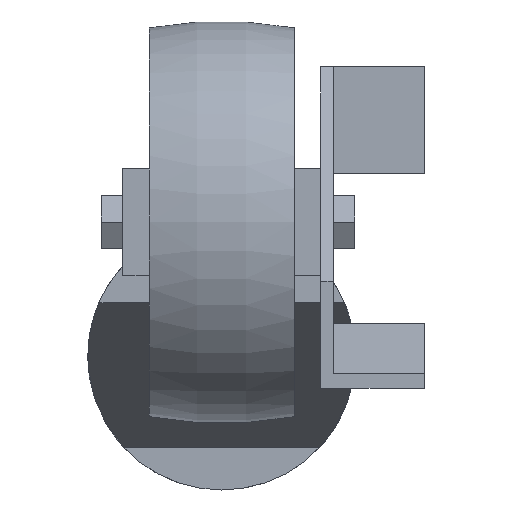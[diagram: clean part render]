
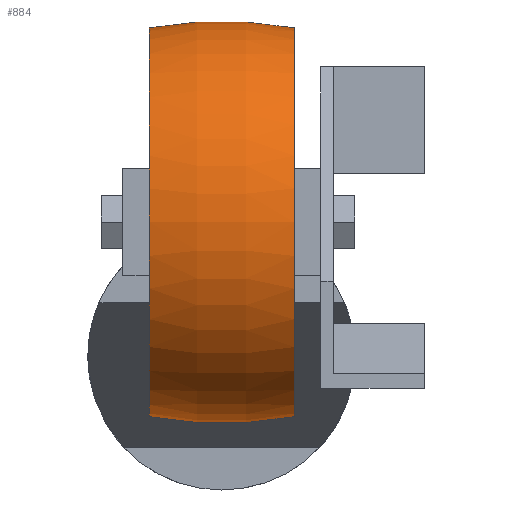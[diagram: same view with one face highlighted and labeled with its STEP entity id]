
A CAD part, front view. The second image highlights one B-rep face of the part: STEP entity #884.
In plain terms, the highlighted toroidal (fillet/blend) face has major radius 37.5 mm and minor radius 75 mm.
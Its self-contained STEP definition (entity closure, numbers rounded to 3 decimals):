
#2 = CARTESIAN_POINT ( 'NONE',  ( -13.5, -63.5, 25. ) ) ;
#18 = EDGE_LOOP ( 'NONE', ( #319, #1023, #629, #1651 ) ) ;
#48 = DIRECTION ( 'NONE',  ( 0., -1., 0. ) ) ;
#67 = TOROIDAL_SURFACE ( 'NONE', #1022, -37.5, 75. ) ;
#97 = EDGE_CURVE ( 'NONE', #1321, #1059, #1034, .T. ) ;
#121 = AXIS2_PLACEMENT_3D ( 'NONE', #712, #48, #605 ) ;
#137 = CARTESIAN_POINT ( 'NONE',  ( 0., -63.5, 62.5 ) ) ;
#150 = DIRECTION ( 'NONE',  ( 0., 0., 1. ) ) ;
#286 = DIRECTION ( 'NONE',  ( -1., 0., 0. ) ) ;
#319 = ORIENTED_EDGE ( 'NONE', *, *, #1235, .F. ) ;
#417 = CARTESIAN_POINT ( 'NONE',  ( 13.5, -63.5, 25. ) ) ;
#420 = AXIS2_PLACEMENT_3D ( 'NONE', #2, #286, #150 ) ;
#547 = DIRECTION ( 'NONE',  ( -1., 0., 0. ) ) ;
#566 = CARTESIAN_POINT ( 'NONE',  ( 13.5, -63.5, 61.275 ) ) ;
#595 = CARTESIAN_POINT ( 'NONE',  ( 13.5, -63.5, -11.275 ) ) ;
#605 = DIRECTION ( 'NONE',  ( 0., 0., -1. ) ) ;
#629 = ORIENTED_EDGE ( 'NONE', *, *, #719, .T. ) ;
#712 = CARTESIAN_POINT ( 'NONE',  ( 0., -63.5, -12.5 ) ) ;
#719 = EDGE_CURVE ( 'NONE', #1570, #1059, #793, .T. ) ;
#789 = AXIS2_PLACEMENT_3D ( 'NONE', #137, #1494, #1345 ) ;
#793 = CIRCLE ( 'NONE', #121, 75. ) ;
#829 = DIRECTION ( 'NONE',  ( 0., 0., 1. ) ) ;
#876 = FACE_OUTER_BOUND ( 'NONE', #18, .T. ) ;
#884 = ADVANCED_FACE ( 'NONE', ( #876 ), #67, .T. ) ;
#900 = CARTESIAN_POINT ( 'NONE',  ( 0., -63.5, 25. ) ) ;
#1022 = AXIS2_PLACEMENT_3D ( 'NONE', #900, #1173, #1686 ) ;
#1023 = ORIENTED_EDGE ( 'NONE', *, *, #1595, .T. ) ;
#1034 = CIRCLE ( 'NONE', #420, 36.275 ) ;
#1059 = VERTEX_POINT ( 'NONE', #1742 ) ;
#1173 = DIRECTION ( 'NONE',  ( -1., 0., 0. ) ) ;
#1235 = EDGE_CURVE ( 'NONE', #1695, #1321, #1554, .T. ) ;
#1321 = VERTEX_POINT ( 'NONE', #1378 ) ;
#1345 = DIRECTION ( 'NONE',  ( 0., 0., 1. ) ) ;
#1354 = CIRCLE ( 'NONE', #1608, 36.275 ) ;
#1378 = CARTESIAN_POINT ( 'NONE',  ( -13.5, -63.5, -11.275 ) ) ;
#1494 = DIRECTION ( 'NONE',  ( 0., 1., 0. ) ) ;
#1554 = CIRCLE ( 'NONE', #789, 75. ) ;
#1570 = VERTEX_POINT ( 'NONE', #566 ) ;
#1595 = EDGE_CURVE ( 'NONE', #1695, #1570, #1354, .T. ) ;
#1608 = AXIS2_PLACEMENT_3D ( 'NONE', #417, #547, #829 ) ;
#1651 = ORIENTED_EDGE ( 'NONE', *, *, #97, .F. ) ;
#1686 = DIRECTION ( 'NONE',  ( 0., 0., 1. ) ) ;
#1695 = VERTEX_POINT ( 'NONE', #595 ) ;
#1742 = CARTESIAN_POINT ( 'NONE',  ( -13.5, -63.5, 61.275 ) ) ;
